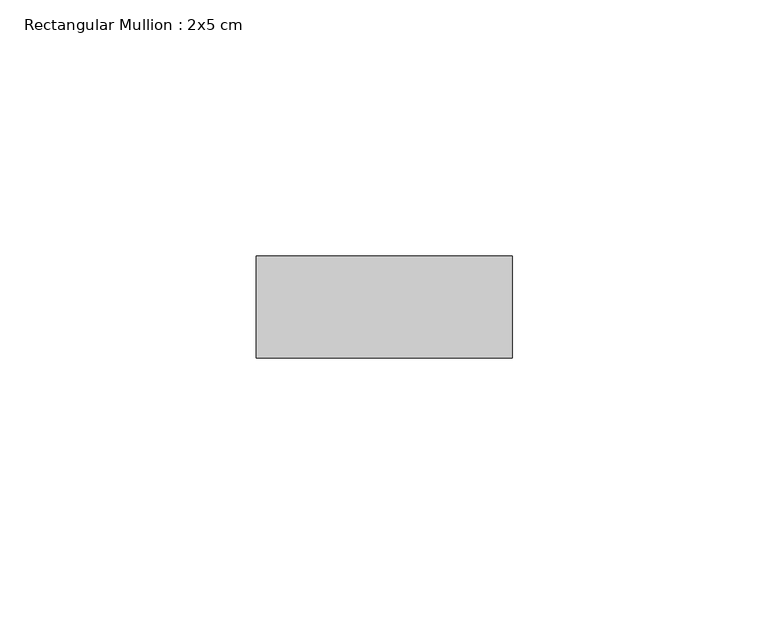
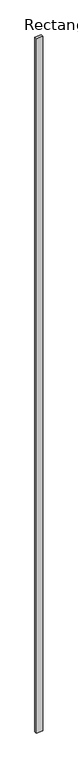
"""IFC4 building model written with IfcOpenShell, lengths in millimetres: member geometry, Rectangular Mullion : 2x5 cm."""

from ifc_helpers import new_model, si_unit, frame, origin, place, context, project, spatial, polyline, outline, extrude, source, transform, mapped, element, save


def rectangular_mullion_2x5_cm_33a1bf7f(model_context):
    return source(origin(), model_context, "Body", "SweptSolid", [
        extrude(outline(polyline([(50.0, 20.0), (50.0, 0.0), (0.0, 0.0), (0.0, 20.0), (50.0, 20.0)])), frame((0.0, 0.0, -5592.9311714), z_axis=(0.0, 0.0, 1.0), x_axis=(1.0, 0.0, 0.0)), (0.0, 0.0, 1.0), 5592.9311714),
    ])


if __name__ == "__main__":
    model = new_model("IFC4")
    model_context = context("Model", 3, world=origin())
    ifc_project = project(units=[si_unit("LENGTHUNIT", "METRE", prefix="MILLI")], contexts=[model_context])
    site = spatial("IfcSite", under=ifc_project)
    building = spatial("IfcBuilding", under=site)
    placement = place(None, origin())
    rectangular_mullion_2x5_cm_shape = rectangular_mullion_2x5_cm_33a1bf7f(model_context)
    element("IfcMember", 1, ObjectType="Rectangular Mullion : 2x5 cm", at=placement, inside=building, context=model_context, shape_type="MappedRepresentation", body=[
        mapped(rectangular_mullion_2x5_cm_shape, transform((0.0, 0.0, 0.0), x_axis=(1.0, 0.0, 0.0), y_axis=(0.0, 1.0, 0.0), z_axis=(0.0, 0.0, 1.0))),
    ])
    save(model, "model.ifc")
